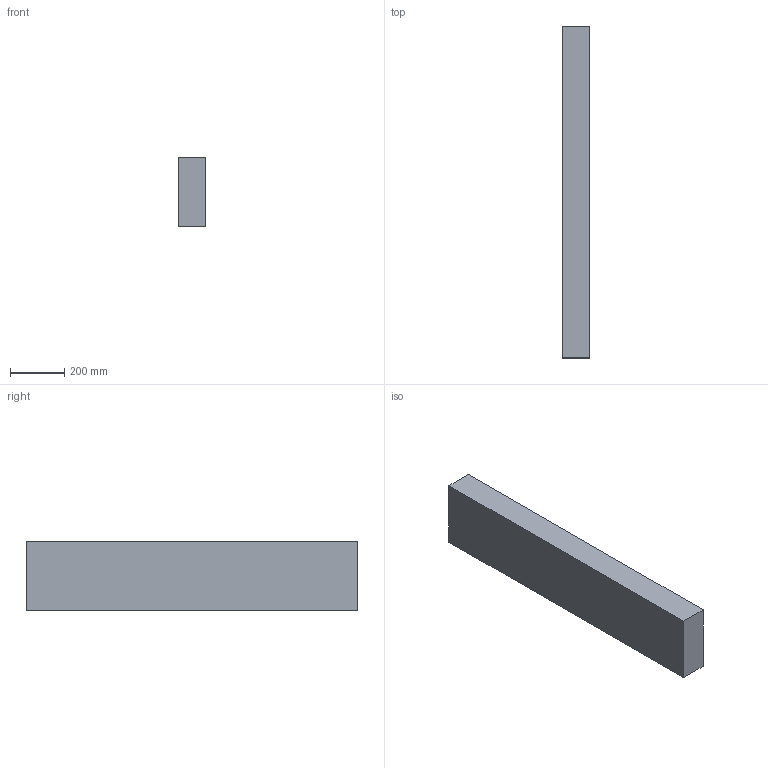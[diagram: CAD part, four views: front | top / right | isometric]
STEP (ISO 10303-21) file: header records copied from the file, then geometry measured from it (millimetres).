
FILE_DESCRIPTION(/* description */ (''),/* implementation_level */ '2;1');
FILE_NAME(/* name */ '4x10x48',/* time_stamp */ '2024-09-20T11:45:34-05:00',/* author */ (''),/* organization */ (''),/* preprocessor_version */ 'ST-DEVELOPER v19.2',/* originating_system */ 'Rhino 8.5',/* authorisation */ '');
FILE_SCHEMA (('CONFIG_CONTROL_DESIGN'));
Length unit declared in the file: inch
Products named in the file (1): Document
Bounding box: 101.6 x 1219.2 x 254 mm (x, y, z)
Volume: 31463162.9 mm3; surface area: 918707.8 mm2
Topology: 1 solids, 1 shells, 6 faces, 12 edges, 8 vertices
Faces by surface type: plane 6
Entity records: 226 total; most frequent: CARTESIAN_POINT 40, ORIENTED_EDGE 24, EDGE_CURVE 12, B_SPLINE_CURVE_WITH_KNOTS 12, DIRECTION 10, VERTEX_POINT 8, AXIS2_PLACEMENT_3D 8, ORGANIZATION 7
